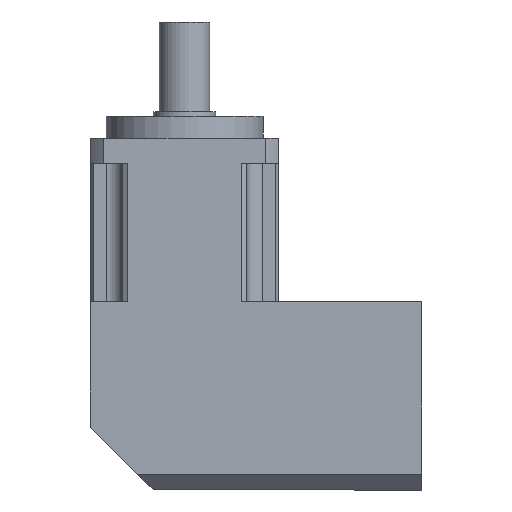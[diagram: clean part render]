
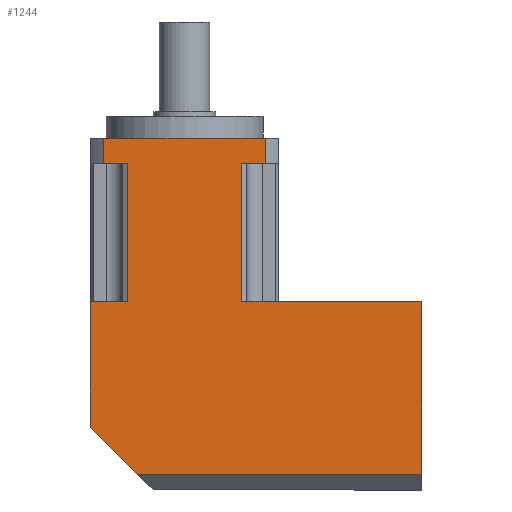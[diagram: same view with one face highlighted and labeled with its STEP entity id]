
A CAD part, front view. The second image highlights one B-rep face of the part: STEP entity #1244.
In plain terms, the highlighted planar face has unit normal (0, -1, 0).
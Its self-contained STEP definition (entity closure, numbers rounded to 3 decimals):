
#19 = VERTEX_POINT ( 'NONE', #1382 ) ;
#65 = ORIENTED_EDGE ( 'NONE', *, *, #547, .F. ) ;
#139 = CARTESIAN_POINT ( 'NONE',  ( -25.695, -30., 0. ) ) ;
#163 = DIRECTION ( 'NONE',  ( 0., 0., 1. ) ) ;
#191 = CARTESIAN_POINT ( 'NONE',  ( -18.028, -30., -52. ) ) ;
#207 = CARTESIAN_POINT ( 'NONE',  ( -15., -30., -107. ) ) ;
#211 = DIRECTION ( 'NONE',  ( 0., 0., -1. ) ) ;
#219 = CARTESIAN_POINT ( 'NONE',  ( 18.028, -30., -52. ) ) ;
#235 = EDGE_CURVE ( 'NONE', #1493, #2961, #680, .T. ) ;
#293 = VERTEX_POINT ( 'NONE', #3059 ) ;
#309 = ORIENTED_EDGE ( 'NONE', *, *, #930, .T. ) ;
#336 = CARTESIAN_POINT ( 'NONE',  ( 30., -30., -52. ) ) ;
#430 = VECTOR ( 'NONE', #3247, 1000. ) ;
#453 = EDGE_CURVE ( 'NONE', #19, #2264, #639, .T. ) ;
#471 = DIRECTION ( 'NONE',  ( 0., 0., 1. ) ) ;
#473 = VECTOR ( 'NONE', #755, 1000. ) ;
#479 = LINE ( 'NONE', #1973, #2443 ) ;
#498 = CARTESIAN_POINT ( 'NONE',  ( 25.695, -30., -52. ) ) ;
#500 = ORIENTED_EDGE ( 'NONE', *, *, #2077, .F. ) ;
#506 = AXIS2_PLACEMENT_3D ( 'NONE', #336, #1105, #2907 ) ;
#542 = VERTEX_POINT ( 'NONE', #3271 ) ;
#547 = EDGE_CURVE ( 'NONE', #944, #2169, #1167, .T. ) ;
#557 = LINE ( 'NONE', #498, #473 ) ;
#612 = EDGE_LOOP ( 'NONE', ( #1102, #2892, #682, #65, #1151, #1733, #309, #2470, #1820, #500, #2275, #2784, #2451 ) ) ;
#636 = VECTOR ( 'NONE', #1383, 1000. ) ;
#639 = LINE ( 'NONE', #2195, #3298 ) ;
#680 = LINE ( 'NONE', #191, #1294 ) ;
#682 = ORIENTED_EDGE ( 'NONE', *, *, #1461, .T. ) ;
#705 = CARTESIAN_POINT ( 'NONE',  ( -18.028, -30., -52. ) ) ;
#742 = CARTESIAN_POINT ( 'NONE',  ( 30., -30., -52. ) ) ;
#755 = DIRECTION ( 'NONE',  ( 0., 0., -1. ) ) ;
#774 = VERTEX_POINT ( 'NONE', #1825 ) ;
#877 = LINE ( 'NONE', #2632, #2159 ) ;
#930 = EDGE_CURVE ( 'NONE', #2313, #2541, #2086, .T. ) ;
#944 = VERTEX_POINT ( 'NONE', #3184 ) ;
#968 = DIRECTION ( 'NONE',  ( 0.707, 0., -0.707 ) ) ;
#1102 = ORIENTED_EDGE ( 'NONE', *, *, #2914, .F. ) ;
#1105 = DIRECTION ( 'NONE',  ( 0., 1., 0. ) ) ;
#1121 = FACE_OUTER_BOUND ( 'NONE', #612, .T. ) ;
#1151 = ORIENTED_EDGE ( 'NONE', *, *, #2954, .T. ) ;
#1167 = LINE ( 'NONE', #1745, #2450 ) ;
#1244 = ADVANCED_FACE ( 'NONE', ( #1121 ), #2644, .F. ) ;
#1254 = DIRECTION ( 'NONE',  ( -1., 0., 0. ) ) ;
#1274 = CARTESIAN_POINT ( 'NONE',  ( 25.695, -30., -8. ) ) ;
#1280 = VECTOR ( 'NONE', #163, 1000. ) ;
#1294 = VECTOR ( 'NONE', #2231, 1000. ) ;
#1335 = EDGE_CURVE ( 'NONE', #542, #2961, #1482, .T. ) ;
#1382 = CARTESIAN_POINT ( 'NONE',  ( 25.695, -30., 0. ) ) ;
#1383 = DIRECTION ( 'NONE',  ( 1., 0., 0. ) ) ;
#1461 = EDGE_CURVE ( 'NONE', #1869, #2169, #479, .T. ) ;
#1482 = LINE ( 'NONE', #1662, #2768 ) ;
#1493 = VERTEX_POINT ( 'NONE', #705 ) ;
#1662 = CARTESIAN_POINT ( 'NONE',  ( -18.028, -30., -8. ) ) ;
#1733 = ORIENTED_EDGE ( 'NONE', *, *, #1868, .T. ) ;
#1745 = CARTESIAN_POINT ( 'NONE',  ( 75.5, -30., -52. ) ) ;
#1802 = LINE ( 'NONE', #1962, #430 ) ;
#1820 = ORIENTED_EDGE ( 'NONE', *, *, #453, .T. ) ;
#1825 = CARTESIAN_POINT ( 'NONE',  ( -30., -30., -52. ) ) ;
#1856 = DIRECTION ( 'NONE',  ( 0., 0., 1. ) ) ;
#1868 = EDGE_CURVE ( 'NONE', #2519, #2313, #2154, .T. ) ;
#1869 = VERTEX_POINT ( 'NONE', #207 ) ;
#1962 = CARTESIAN_POINT ( 'NONE',  ( 30., -30., -52. ) ) ;
#1973 = CARTESIAN_POINT ( 'NONE',  ( 30., -30., -107. ) ) ;
#2042 = VECTOR ( 'NONE', #968, 1000. ) ;
#2077 = EDGE_CURVE ( 'NONE', #542, #2264, #877, .T. ) ;
#2086 = LINE ( 'NONE', #2923, #636 ) ;
#2144 = CARTESIAN_POINT ( 'NONE',  ( 75.5, -30., -107. ) ) ;
#2154 = LINE ( 'NONE', #219, #2324 ) ;
#2159 = VECTOR ( 'NONE', #1856, 1000. ) ;
#2169 = VERTEX_POINT ( 'NONE', #2144 ) ;
#2195 = CARTESIAN_POINT ( 'NONE',  ( 30., -30., 0. ) ) ;
#2231 = DIRECTION ( 'NONE',  ( 0., 0., 1. ) ) ;
#2264 = VERTEX_POINT ( 'NONE', #139 ) ;
#2275 = ORIENTED_EDGE ( 'NONE', *, *, #1335, .T. ) ;
#2313 = VERTEX_POINT ( 'NONE', #2721 ) ;
#2324 = VECTOR ( 'NONE', #471, 1000. ) ;
#2389 = EDGE_CURVE ( 'NONE', #293, #1869, #2573, .T. ) ;
#2407 = VECTOR ( 'NONE', #1254, 1000. ) ;
#2443 = VECTOR ( 'NONE', #3259, 1000. ) ;
#2450 = VECTOR ( 'NONE', #211, 1000. ) ;
#2451 = ORIENTED_EDGE ( 'NONE', *, *, #2466, .T. ) ;
#2464 = DIRECTION ( 'NONE',  ( -1., 0., 0. ) ) ;
#2466 = EDGE_CURVE ( 'NONE', #1493, #774, #3101, .T. ) ;
#2470 = ORIENTED_EDGE ( 'NONE', *, *, #3181, .F. ) ;
#2482 = CARTESIAN_POINT ( 'NONE',  ( -18.028, -30., -8. ) ) ;
#2511 = CARTESIAN_POINT ( 'NONE',  ( -10., -30., -112. ) ) ;
#2519 = VERTEX_POINT ( 'NONE', #2549 ) ;
#2541 = VERTEX_POINT ( 'NONE', #1274 ) ;
#2549 = CARTESIAN_POINT ( 'NONE',  ( 18.028, -30., -52. ) ) ;
#2573 = LINE ( 'NONE', #2511, #2042 ) ;
#2632 = CARTESIAN_POINT ( 'NONE',  ( -25.695, -30., -52. ) ) ;
#2644 = PLANE ( 'NONE',  #506 ) ;
#2721 = CARTESIAN_POINT ( 'NONE',  ( 18.028, -30., -8. ) ) ;
#2768 = VECTOR ( 'NONE', #3200, 1000. ) ;
#2784 = ORIENTED_EDGE ( 'NONE', *, *, #235, .F. ) ;
#2892 = ORIENTED_EDGE ( 'NONE', *, *, #2389, .T. ) ;
#2907 = DIRECTION ( 'NONE',  ( 0., 0., 1. ) ) ;
#2914 = EDGE_CURVE ( 'NONE', #293, #774, #3246, .T. ) ;
#2923 = CARTESIAN_POINT ( 'NONE',  ( 30., -30., -8. ) ) ;
#2954 = EDGE_CURVE ( 'NONE', #944, #2519, #1802, .T. ) ;
#2961 = VERTEX_POINT ( 'NONE', #2482 ) ;
#3059 = CARTESIAN_POINT ( 'NONE',  ( -30., -30., -92. ) ) ;
#3101 = LINE ( 'NONE', #742, #2407 ) ;
#3181 = EDGE_CURVE ( 'NONE', #19, #2541, #557, .T. ) ;
#3184 = CARTESIAN_POINT ( 'NONE',  ( 75.5, -30., -52. ) ) ;
#3200 = DIRECTION ( 'NONE',  ( 1., 0., 0. ) ) ;
#3237 = CARTESIAN_POINT ( 'NONE',  ( -30., -30., -112. ) ) ;
#3246 = LINE ( 'NONE', #3237, #1280 ) ;
#3247 = DIRECTION ( 'NONE',  ( -1., 0., 0. ) ) ;
#3259 = DIRECTION ( 'NONE',  ( 1., 0., 0. ) ) ;
#3271 = CARTESIAN_POINT ( 'NONE',  ( -25.695, -30., -8. ) ) ;
#3298 = VECTOR ( 'NONE', #2464, 1000. ) ;
